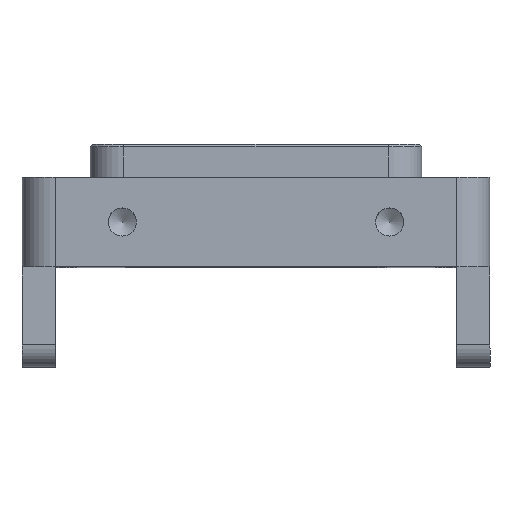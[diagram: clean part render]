
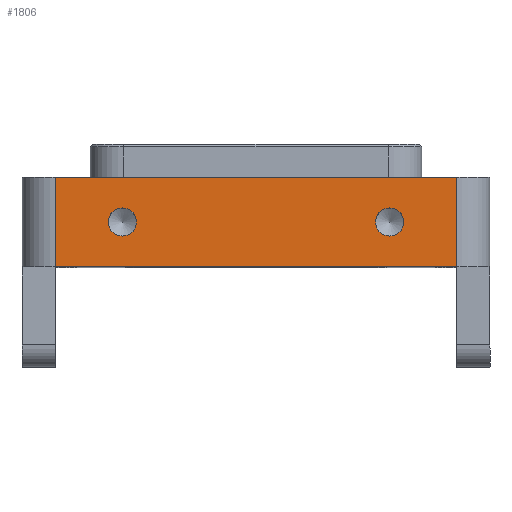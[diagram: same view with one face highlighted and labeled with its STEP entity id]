
A CAD part, top view. The second image highlights one B-rep face of the part: STEP entity #1806.
In plain terms, the highlighted planar face has unit normal (0, 0, 1).
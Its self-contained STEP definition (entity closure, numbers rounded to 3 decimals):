
#52=FACE_BOUND('',#366,.T.);
#53=FACE_BOUND('',#367,.T.);
#92=PLANE('',#2020);
#228=FACE_OUTER_BOUND('',#365,.T.);
#365=EDGE_LOOP('',(#1623,#1624,#1625,#1626));
#366=EDGE_LOOP('',(#1627));
#367=EDGE_LOOP('',(#1628));
#503=LINE('',#2956,#651);
#519=LINE('',#3017,#667);
#532=LINE('',#3076,#680);
#533=LINE('',#3078,#681);
#651=VECTOR('',#2406,10.);
#667=VECTOR('',#2464,10.);
#680=VECTOR('',#2537,10.);
#681=VECTOR('',#2540,10.);
#699=CIRCLE('',#1853,1.265);
#701=CIRCLE('',#1857,1.265);
#805=VERTEX_POINT('',#2626);
#808=VERTEX_POINT('',#2635);
#917=VERTEX_POINT('',#2954);
#918=VERTEX_POINT('',#2955);
#941=VERTEX_POINT('',#3014);
#942=VERTEX_POINT('',#3016);
#972=EDGE_CURVE('',#805,#805,#699,.T.);
#976=EDGE_CURVE('',#808,#808,#701,.T.);
#1131=EDGE_CURVE('',#917,#918,#503,.T.);
#1165=EDGE_CURVE('',#941,#942,#519,.F.);
#1196=EDGE_CURVE('',#942,#918,#532,.T.);
#1197=EDGE_CURVE('',#917,#941,#533,.T.);
#1623=ORIENTED_EDGE('',*,*,#1196,.F.);
#1624=ORIENTED_EDGE('',*,*,#1165,.F.);
#1625=ORIENTED_EDGE('',*,*,#1197,.F.);
#1626=ORIENTED_EDGE('',*,*,#1131,.T.);
#1627=ORIENTED_EDGE('',*,*,#972,.T.);
#1628=ORIENTED_EDGE('',*,*,#976,.T.);
#1806=ADVANCED_FACE('',(#228,#52,#53),#92,.T.);
#1853=AXIS2_PLACEMENT_3D('',#2627,#2074,#2075);
#1857=AXIS2_PLACEMENT_3D('',#2636,#2084,#2085);
#2020=AXIS2_PLACEMENT_3D('',#3077,#2538,#2539);
#2074=DIRECTION('center_axis',(0.,0.,-1.));
#2075=DIRECTION('ref_axis',(1.,0.,0.));
#2084=DIRECTION('center_axis',(0.,0.,-1.));
#2085=DIRECTION('ref_axis',(1.,0.,0.));
#2406=DIRECTION('',(-1.,0.,0.));
#2464=DIRECTION('',(1.,0.,0.));
#2537=DIRECTION('',(0.,1.,0.));
#2538=DIRECTION('center_axis',(0.,0.,1.));
#2539=DIRECTION('ref_axis',(-1.,0.,0.));
#2540=DIRECTION('',(0.,-1.,0.));
#2626=CARTESIAN_POINT('',(-13.265,-7.,48.));
#2627=CARTESIAN_POINT('Origin',(-12.,-7.,48.));
#2635=CARTESIAN_POINT('',(10.736,-7.,48.));
#2636=CARTESIAN_POINT('Origin',(12.,-7.,48.));
#2954=CARTESIAN_POINT('',(18.,-3.,48.));
#2955=CARTESIAN_POINT('',(-18.,-3.,48.));
#2956=CARTESIAN_POINT('',(10.5,-3.,48.));
#3014=CARTESIAN_POINT('',(18.,-11.,48.));
#3016=CARTESIAN_POINT('',(-18.,-11.,48.));
#3017=CARTESIAN_POINT('',(10.5,-11.,48.));
#3076=CARTESIAN_POINT('',(-18.,0.,48.));
#3077=CARTESIAN_POINT('Origin',(21.,0.,48.));
#3078=CARTESIAN_POINT('',(18.,0.,48.));
